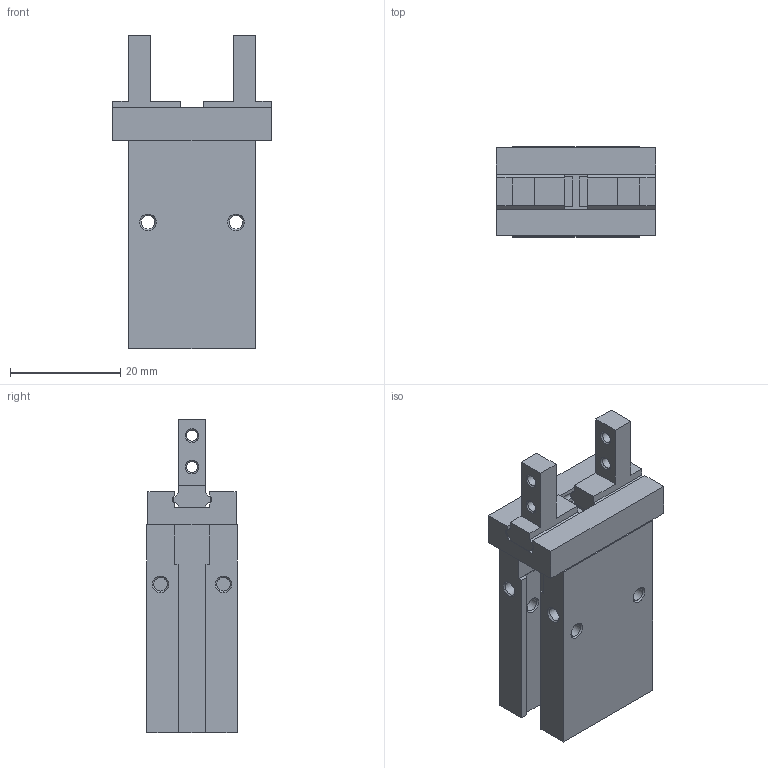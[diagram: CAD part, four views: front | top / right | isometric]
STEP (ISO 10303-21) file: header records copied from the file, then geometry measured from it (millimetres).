
FILE_DESCRIPTION( ( 'STEP AP214' ), '1' );
FILE_NAME( 'F:/CRG-3D-PAN-XU/CRG-chan pin kai fa cun dang - xu/协助/样品整理/平行夹/MHZ2-10S_15.2_0_.stp', '2023-03-07T08:21:03', ( '' ), ( '' ), ' ', 'PARTsolutions', ' ' );
FILE_SCHEMA( ( 'AUTOMOTIVE_DESIGN { 1 0 10303 214 1 1 1 1 }' ) );
Length unit declared in the file: millimetre
Products named in the file (3): MHZ2-10S(15.2_0); _MHZ2-10S_Body(0); _MHZ2-10S_Finger(0)
Assembly tree (3 placements, depth 2):
  MHZ2-10S(15.2_0)
    _MHZ2-10S_Body(0)
    _MHZ2-10S_Finger(0)  x2
Bounding box: 29 x 16.4 x 57 mm (x, y, z)
Volume: 14590.8 mm3; surface area: 7094.7 mm2
Topology: 3 solids, 3 shells, 145 faces, 359 edges, 231 vertices
Faces by surface type: plane 103, cone 21, cylinder 21
Full cylindrical faces by diameter (mm): 2 x1, 2.013 x4, 2.459 x9, 11 x1
Entity records: 4236 total; most frequent: CARTESIAN_POINT 558, DIRECTION 546, ORIENTED_EDGE 510, EDGE_CURVE 255, LINE 204, VECTOR 204, VERTEX_POINT 183, AXIS2_PLACEMENT_3D 171
